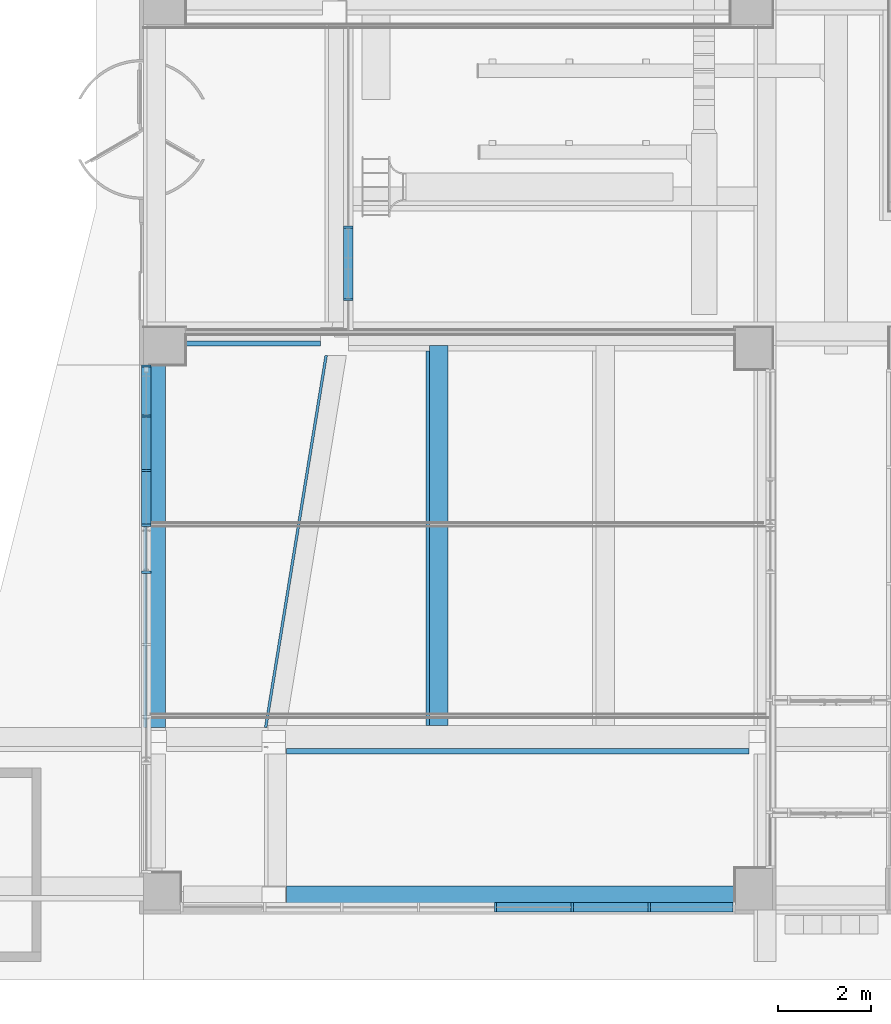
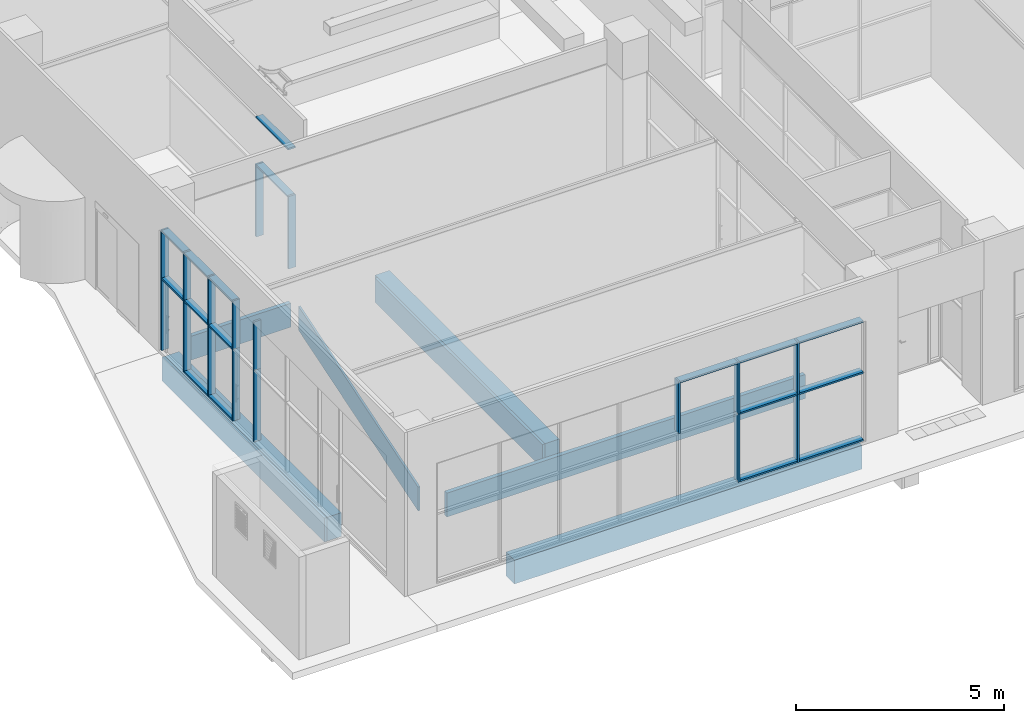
# One storey, part 3 of 100: 34 members, 8 beams, 3 elements without a shape of their own.
"""IFC2X3 building model written with IfcOpenShell, lengths in millimetres."""

from ifc_helpers import new_model, entity, si_unit, converted_unit, derived_unit, direction, frame, frame_2d, origin, origin_2d_with_axis, place, context, subcontext, project, spatial, rectangle, extrude, clip, halfspace, source, transform, mapped, material, material_list, type_object, type_shapes, element, aggregate, save


model = new_model("IFC2X3")

# Units and contexts
model_context = context("Model", 3, precision=0.01, world=origin(), true_north=direction((6.123031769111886e-17, 1.0)))
body_context = subcontext(model_context, "Body", "Model", "MODEL_VIEW")
ifc_project = project(units=[si_unit("LENGTHUNIT", "METRE", prefix="MILLI"), si_unit("AREAUNIT", "SQUARE_METRE"), si_unit("VOLUMEUNIT", "CUBIC_METRE"), converted_unit("PLANEANGLEUNIT", "DEGREE", entity("IfcRatioMeasure", 0.017453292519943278), si_unit("PLANEANGLEUNIT", "RADIAN"), dimensions=[0, 0, 0, 0, 0, 0, 0]), si_unit("MASSUNIT", "GRAM", prefix="KILO"), derived_unit("MASSDENSITYUNIT", [(si_unit("MASSUNIT", "GRAM", prefix="KILO"), 1), (si_unit("LENGTHUNIT", "METRE"), -3)]), derived_unit("MOMENTOFINERTIAUNIT", [(si_unit("LENGTHUNIT", "METRE"), 4)]), si_unit("TIMEUNIT", "SECOND"), si_unit("FREQUENCYUNIT", "HERTZ"), si_unit("THERMODYNAMICTEMPERATUREUNIT", "DEGREE_CELSIUS"), derived_unit("THERMALTRANSMITTANCEUNIT", [(si_unit("MASSUNIT", "GRAM", prefix="KILO"), 1), (si_unit("THERMODYNAMICTEMPERATUREUNIT", "KELVIN"), -1), (si_unit("TIMEUNIT", "SECOND"), -3)]), derived_unit("VOLUMETRICFLOWRATEUNIT", [(si_unit("LENGTHUNIT", "METRE"), 3), (si_unit("TIMEUNIT", "SECOND"), -1)]), derived_unit("MASSFLOWRATEUNIT", [(si_unit("MASSUNIT", "GRAM", prefix="KILO"), 1), (si_unit("TIMEUNIT", "SECOND"), -1)]), derived_unit("ROTATIONALFREQUENCYUNIT", [(si_unit("TIMEUNIT", "SECOND"), -1)]), si_unit("ELECTRICCURRENTUNIT", "AMPERE"), si_unit("ELECTRICVOLTAGEUNIT", "VOLT"), si_unit("POWERUNIT", "WATT"), si_unit("FORCEUNIT", "NEWTON", prefix="KILO"), si_unit("ILLUMINANCEUNIT", "LUX"), si_unit("LUMINOUSFLUXUNIT", "LUMEN"), si_unit("LUMINOUSINTENSITYUNIT", "CANDELA"), derived_unit("USERDEFINED", [(si_unit("MASSUNIT", "GRAM", prefix="KILO"), -1), (si_unit("LENGTHUNIT", "METRE"), -2), (si_unit("TIMEUNIT", "SECOND"), 3), (si_unit("LUMINOUSFLUXUNIT", "LUMEN"), 1)]), derived_unit("SOUNDPOWERUNIT", [(si_unit("MASSUNIT", "GRAM", prefix="KILO"), 1), (si_unit("LENGTHUNIT", "METRE"), 2), (si_unit("TIMEUNIT", "SECOND"), -3)]), derived_unit("SOUNDPRESSUREUNIT", [(si_unit("MASSUNIT", "GRAM", prefix="KILO"), 1), (si_unit("LENGTHUNIT", "METRE"), -1), (si_unit("TIMEUNIT", "SECOND"), -2)]), derived_unit("LINEARVELOCITYUNIT", [(si_unit("LENGTHUNIT", "METRE"), 1), (si_unit("TIMEUNIT", "SECOND"), -1)]), si_unit("PRESSUREUNIT", "PASCAL"), derived_unit("USERDEFINED", [(si_unit("LENGTHUNIT", "METRE"), -2), (si_unit("MASSUNIT", "GRAM", prefix="KILO"), 1), (si_unit("TIMEUNIT", "SECOND"), -2)]), derived_unit("LINEARFORCEUNIT", [(si_unit("MASSUNIT", "GRAM", prefix="KILO"), 1), (si_unit("LENGTHUNIT", "METRE"), 1), (si_unit("TIMEUNIT", "SECOND"), -2), (si_unit("LENGTHUNIT", "METRE"), -1)]), derived_unit("PLANARFORCEUNIT", [(si_unit("MASSUNIT", "GRAM", prefix="KILO"), 1), (si_unit("LENGTHUNIT", "METRE"), 1), (si_unit("TIMEUNIT", "SECOND"), -2), (si_unit("LENGTHUNIT", "METRE"), -2)])], contexts=[model_context])

# Site, building, storey
site_placement = place(None, frame((-14167.972527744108, -657.2125860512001, 0.0)))
site = spatial("IfcSite", under=ifc_project, at=site_placement, Name="Default", CompositionType="ELEMENT")
building_placement = place(site_placement, origin())
building = spatial("IfcBuilding", under=site, at=building_placement, Name="Sample Building", CompositionType="ELEMENT")
storey_placement = place(building_placement, origin())
storey = spatial("IfcBuildingStorey", under=building, at=storey_placement, Name="지상 1층", CompositionType="ELEMENT", Elevation=0.0)

# Curtain wall, members
curtain_wall_type = type_object("IfcCurtainWallType", Name="커튼월:CW112-스테인리스 스틸 커튼월", PredefinedType="NOTDEFINED")
curtain_wall_1_placement = place(storey_placement, origin())
curtain_wall_1 = element("IfcCurtainWall", 1, at=curtain_wall_1_placement, inside=storey, type_object=curtain_wall_type, Name="커튼월:CW112-스테인리스 스틸 커튼월", ObjectType="커튼월:CW112-스테인리스 스틸 커튼월")
ifc_material_1 = material(Name="<Unnamed>")
member_type_1 = type_object("IfcMemberType", Name="직사각형 멀리언:CW200-직사각형 멀리언 50x200mm", PredefinedType="MULLION", material=ifc_material_1)
shared_shape_1 = source(origin(), body_context, "Body", "SweptSolid", [
    extrude(rectangle(XDim=200.0, YDim=50.0, at=origin_2d_with_axis()), frame((-25.0, 0.0, -1420.0), z_axis=(0.0, 0.0, 1.0), x_axis=(0.0, -1.0, 0.0)), (0.0, 0.0, 1.0), 1420.0000000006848),
])
type_shapes(member_type_1, [shared_shape_1])
member_1_placement = place(curtain_wall_1_placement, frame((14129.83965484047, 12257.194891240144, 3600.0), z_axis=(0.0, 0.0, 1.0), x_axis=(0.0, 1.0, 0.0)))
member_1 = element("IfcMember", 2, at=member_1_placement, type_object=member_type_1, material=ifc_material_1, Name="직사각형 멀리언:CW200-직사각형 멀리언 50x200mm", ObjectType="직사각형 멀리언:CW200-직사각형 멀리언 50x200mm", context=body_context, shape_type="MappedRepresentation", body=[
    mapped(shared_shape_1, transform((0.0, 0.0, 0.0), scale=1.0)),
])
member_type_2 = type_object("IfcMemberType", Name="직사각형 멀리언:CW200-직사각형 멀리언 50x200mm", PredefinedType="MULLION", material=ifc_material_1)
shared_shape_2 = source(origin(), body_context, "Body", "SweptSolid", [
    extrude(rectangle(XDim=200.0, YDim=50.0, at=origin_2d_with_axis()), frame((0.0, 0.0, -2100.0), z_axis=(0.0, 0.0, 1.0), x_axis=(0.0, -1.0, 0.0)), (0.0, 0.0, 1.0), 2100.0),
])
type_shapes(member_type_2, [shared_shape_2])
member_2_placement = place(curtain_wall_1_placement, frame((14129.839654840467, 8817.177624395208, 80.0), z_axis=(0.0, 0.0, -1.0), x_axis=(0.0, -1.0, 0.0)))
member_2 = element("IfcMember", 3, at=member_2_placement, type_object=member_type_2, material=ifc_material_1, Name="직사각형 멀리언:CW200-직사각형 멀리언 50x200mm", ObjectType="직사각형 멀리언:CW200-직사각형 멀리언 50x200mm", context=body_context, shape_type="MappedRepresentation", body=[
    mapped(shared_shape_2, transform((0.0, 0.0, 0.0), scale=1.0)),
])
member_3_placement = place(curtain_wall_1_placement, frame((14129.839654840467, 7807.177624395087, 80.0), z_axis=(0.0, 0.0, -1.0), x_axis=(0.0, -1.0, 0.0)))
member_3 = element("IfcMember", 4, at=member_3_placement, type_object=member_type_2, material=ifc_material_1, Name="직사각형 멀리언:CW200-직사각형 멀리언 50x200mm", ObjectType="직사각형 멀리언:CW200-직사각형 멀리언 50x200mm", context=body_context, shape_type="MappedRepresentation", body=[
    mapped(shared_shape_2, transform((0.0, 0.0, 0.0), scale=1.0)),
])
member_4_placement = place(curtain_wall_1_placement, frame((14129.83965484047, 11157.177624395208, 80.0), z_axis=(0.0, 0.0, -1.0), x_axis=(0.0, -1.0, 0.0)))
member_4 = element("IfcMember", 5, at=member_4_placement, type_object=member_type_2, material=ifc_material_1, Name="직사각형 멀리언:CW200-직사각형 멀리언 50x200mm", ObjectType="직사각형 멀리언:CW200-직사각형 멀리언 50x200mm", context=body_context, shape_type="MappedRepresentation", body=[
    mapped(shared_shape_2, transform((0.0, 0.0, 0.0), scale=1.0)),
])
member_5_placement = place(curtain_wall_1_placement, frame((14129.839654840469, 9987.177624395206, 80.0), z_axis=(0.0, 0.0, -1.0), x_axis=(0.0, -1.0, 0.0)))
member_5 = element("IfcMember", 6, at=member_5_placement, type_object=member_type_2, material=ifc_material_1, Name="직사각형 멀리언:CW200-직사각형 멀리언 50x200mm", ObjectType="직사각형 멀리언:CW200-직사각형 멀리언 50x200mm", context=body_context, shape_type="MappedRepresentation", body=[
    mapped(shared_shape_2, transform((0.0, 0.0, 0.0), scale=1.0)),
])
member_type_3 = type_object("IfcMemberType", Name="직사각형 멀리언:CW200-직사각형 멀리언 50x200mm", PredefinedType="MULLION", material=ifc_material_1)
shared_shape_3 = source(origin(), body_context, "Body", "SweptSolid", [
    extrude(rectangle(XDim=200.0, YDim=50.0, at=origin_2d_with_axis()), frame((0.0, 0.0, -1420.0), z_axis=(0.0, 0.0, 1.0), x_axis=(0.0, -1.0, 0.0)), (0.0, 0.0, 1.0), 1420.0000000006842),
])
type_shapes(member_type_3, [shared_shape_3])
member_6_placement = place(curtain_wall_1_placement, frame((14129.839654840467, 8817.177624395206, 2180.0), z_axis=(0.0, 0.0, -1.0), x_axis=(0.0, -1.0, 0.0)))
member_6 = element("IfcMember", 7, at=member_6_placement, type_object=member_type_3, material=ifc_material_1, Name="직사각형 멀리언:CW200-직사각형 멀리언 50x200mm", ObjectType="직사각형 멀리언:CW200-직사각형 멀리언 50x200mm", context=body_context, shape_type="MappedRepresentation", body=[
    mapped(shared_shape_3, transform((0.0, 0.0, 0.0), scale=1.0)),
])
member_7_placement = place(curtain_wall_1_placement, frame((14129.839654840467, 7807.177624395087, 2180.0), z_axis=(0.0, 0.0, -1.0), x_axis=(0.0, -1.0, 0.0)))
member_7 = element("IfcMember", 8, at=member_7_placement, type_object=member_type_3, material=ifc_material_1, Name="직사각형 멀리언:CW200-직사각형 멀리언 50x200mm", ObjectType="직사각형 멀리언:CW200-직사각형 멀리언 50x200mm", context=body_context, shape_type="MappedRepresentation", body=[
    mapped(shared_shape_3, transform((0.0, 0.0, 0.0), scale=1.0)),
])
member_8_placement = place(curtain_wall_1_placement, frame((14129.83965484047, 11157.177624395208, 2180.0), z_axis=(0.0, 0.0, -1.0), x_axis=(0.0, -1.0, 0.0)))
member_8 = element("IfcMember", 9, at=member_8_placement, type_object=member_type_3, material=ifc_material_1, Name="직사각형 멀리언:CW200-직사각형 멀리언 50x200mm", ObjectType="직사각형 멀리언:CW200-직사각형 멀리언 50x200mm", context=body_context, shape_type="MappedRepresentation", body=[
    mapped(shared_shape_3, transform((0.0, 0.0, 0.0), scale=1.0)),
])
member_9_placement = place(curtain_wall_1_placement, frame((14129.839654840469, 9987.177624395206, 2180.0), z_axis=(0.0, 0.0, -1.0), x_axis=(0.0, -1.0, 0.0)))
member_9 = element("IfcMember", 10, at=member_9_placement, type_object=member_type_3, material=ifc_material_1, Name="직사각형 멀리언:CW200-직사각형 멀리언 50x200mm", ObjectType="직사각형 멀리언:CW200-직사각형 멀리언 50x200mm", context=body_context, shape_type="MappedRepresentation", body=[
    mapped(shared_shape_3, transform((0.0, 0.0, 0.0), scale=1.0)),
])
member_type_4 = type_object("IfcMemberType", Name="직사각형 멀리언:CW200-직사각형 멀리언 50x200mm", PredefinedType="MULLION", material=ifc_material_1)
shared_shape_4 = source(origin(), body_context, "Body", "SweptSolid", [
    extrude(rectangle(XDim=200.0, YDim=50.0, at=origin_2d_with_axis()), frame((-25.0, 0.0, -1120.0), z_axis=(0.0, 0.0, 1.0), x_axis=(0.0, -1.0, 0.0)), (0.0, 0.0, 1.0), 1120.0000000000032),
])
type_shapes(member_type_4, [shared_shape_4])
member_10_placement = place(curtain_wall_1_placement, frame((14129.839654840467, 8842.177624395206, 3600.0), z_axis=(0.0, -1.0, 0.0), x_axis=(0.0, 0.0, 1.0)))
member_10 = element("IfcMember", 11, at=member_10_placement, type_object=member_type_4, material=ifc_material_1, Name="직사각형 멀리언:CW200-직사각형 멀리언 50x200mm", ObjectType="직사각형 멀리언:CW200-직사각형 멀리언 50x200mm", context=body_context, shape_type="MappedRepresentation", body=[
    mapped(shared_shape_4, transform((0.0, 0.0, 0.0), scale=1.0)),
])
member_11_placement = place(curtain_wall_1_placement, frame((14129.839654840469, 10012.17762439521, 3600.0), z_axis=(0.0, -1.0, 0.0), x_axis=(0.0, 0.0, 1.0)))
member_11 = element("IfcMember", 12, at=member_11_placement, type_object=member_type_4, material=ifc_material_1, Name="직사각형 멀리언:CW200-직사각형 멀리언 50x200mm", ObjectType="직사각형 멀리언:CW200-직사각형 멀리언 50x200mm", context=body_context, shape_type="MappedRepresentation", body=[
    mapped(shared_shape_4, transform((0.0, 0.0, 0.0), scale=1.0)),
])
member_type_5 = type_object("IfcMemberType", Name="직사각형 멀리언:CW200-직사각형 멀리언 50x200mm", PredefinedType="MULLION", material=ifc_material_1)
shared_shape_5 = source(origin(), body_context, "Body", "SweptSolid", [
    extrude(rectangle(XDim=200.0, YDim=50.0, at=origin_2d_with_axis()), frame((-25.0, 0.0, -2100.0), z_axis=(0.0, 0.0, 1.0), x_axis=(0.0, -1.0, 0.0)), (0.0, 0.0, 1.0), 2099.9999999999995),
])
type_shapes(member_type_5, [shared_shape_5])
member_12_placement = place(curtain_wall_1_placement, frame((14129.83965484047, 12257.194891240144, 2180.0), z_axis=(0.0, 0.0, 1.0), x_axis=(0.0, 1.0, 0.0)))
member_12 = element("IfcMember", 13, at=member_12_placement, type_object=member_type_5, material=ifc_material_1, Name="직사각형 멀리언:CW200-직사각형 멀리언 50x200mm", ObjectType="직사각형 멀리언:CW200-직사각형 멀리언 50x200mm", context=body_context, shape_type="MappedRepresentation", body=[
    mapped(shared_shape_5, transform((0.0, 0.0, 0.0), scale=1.0)),
])
member_type_6 = type_object("IfcMemberType", Name="직사각형 멀리언:CW200-직사각형 멀리언 50x200mm", PredefinedType="MULLION", material=ifc_material_1)
shared_shape_6 = source(origin(), body_context, "Body", "SweptSolid", [
    extrude(rectangle(XDim=200.0, YDim=50.0, at=origin_2d_with_axis()), frame((0.0, 0.0, -1025.0172668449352), z_axis=(0.0, 0.0, 1.0), x_axis=(0.0, -1.0, 0.0)), (0.0, 0.0, 1.0), 1025.017266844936),
])
type_shapes(member_type_6, [shared_shape_6])
member_13_placement = place(curtain_wall_1_placement, frame((14129.83965484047, 11182.177624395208, 2180.0), z_axis=(0.0, -1.0, 0.0), x_axis=(0.0, 0.0, 1.0)))
member_13 = element("IfcMember", 14, at=member_13_placement, type_object=member_type_6, material=ifc_material_1, Name="직사각형 멀리언:CW200-직사각형 멀리언 50x200mm", ObjectType="직사각형 멀리언:CW200-직사각형 멀리언 50x200mm", context=body_context, shape_type="MappedRepresentation", body=[
    mapped(shared_shape_6, transform((0.0, 0.0, 0.0), scale=1.0)),
])
member_type_7 = type_object("IfcMemberType", Name="직사각형 멀리언:CW200-직사각형 멀리언 50x200mm", PredefinedType="MULLION", material=ifc_material_1)
shared_shape_7 = source(origin(), body_context, "Body", "SweptSolid", [
    extrude(rectangle(XDim=200.0, YDim=50.0, at=origin_2d_with_axis()), frame((-25.0, 0.0, -1025.0172668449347), z_axis=(0.0, 0.0, 1.0), x_axis=(0.0, -1.0, 0.0)), (0.0, 0.0, 1.0), 1025.0172668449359),
])
type_shapes(member_type_7, [shared_shape_7])
member_14_placement = place(curtain_wall_1_placement, frame((14129.83965484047, 11182.177624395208, 3600.0), z_axis=(0.0, -1.0, 0.0), x_axis=(0.0, 0.0, 1.0)))
member_14 = element("IfcMember", 15, at=member_14_placement, type_object=member_type_7, material=ifc_material_1, Name="직사각형 멀리언:CW200-직사각형 멀리언 50x200mm", ObjectType="직사각형 멀리언:CW200-직사각형 멀리언 50x200mm", context=body_context, shape_type="MappedRepresentation", body=[
    mapped(shared_shape_7, transform((0.0, 0.0, 0.0), scale=1.0)),
])
member_type_8 = type_object("IfcMemberType", Name="직사각형 멀리언:CW200-직사각형 멀리언 50x200mm", PredefinedType="MULLION", material=ifc_material_1)
shared_shape_8 = source(origin(), body_context, "Body", "SweptSolid", [
    extrude(rectangle(XDim=200.0, YDim=50.0, at=origin_2d_with_axis()), frame((-25.0, 0.0, -1120.0), z_axis=(0.0, 0.0, 1.0), x_axis=(0.0, -1.0, 0.0)), (0.0, 0.0, 1.0), 1120.0000000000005),
])
type_shapes(member_type_8, [shared_shape_8])
member_15_placement = place(curtain_wall_1_placement, frame((14129.83965484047, 11132.177624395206, 80.0), z_axis=(0.0, 1.0, 0.0), x_axis=(0.0, 0.0, -1.0)))
member_15 = element("IfcMember", 16, at=member_15_placement, type_object=member_type_8, material=ifc_material_1, Name="직사각형 멀리언:CW200-직사각형 멀리언 50x200mm", ObjectType="직사각형 멀리언:CW200-직사각형 멀리언 50x200mm", context=body_context, shape_type="MappedRepresentation", body=[
    mapped(shared_shape_8, transform((0.0, 0.0, 0.0), scale=1.0)),
])
member_16_placement = place(curtain_wall_1_placement, frame((14129.839654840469, 9962.177624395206, 80.0), z_axis=(0.0, 1.0, 0.0), x_axis=(0.0, 0.0, -1.0)))
member_16 = element("IfcMember", 17, at=member_16_placement, type_object=member_type_8, material=ifc_material_1, Name="직사각형 멀리언:CW200-직사각형 멀리언 50x200mm", ObjectType="직사각형 멀리언:CW200-직사각형 멀리언 50x200mm", context=body_context, shape_type="MappedRepresentation", body=[
    mapped(shared_shape_8, transform((0.0, 0.0, 0.0), scale=1.0)),
])
member_type_9 = type_object("IfcMemberType", Name="직사각형 멀리언:CW200-직사각형 멀리언 50x200mm", PredefinedType="MULLION", material=ifc_material_1)
shared_shape_9 = source(origin(), body_context, "Body", "SweptSolid", [
    extrude(rectangle(XDim=200.0, YDim=50.0, at=origin_2d_with_axis()), frame((0.0, 0.0, -1120.0), z_axis=(0.0, 0.0, 1.0), x_axis=(0.0, -1.0, 0.0)), (0.0, 0.0, 1.0), 1120.0000000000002),
])
type_shapes(member_type_9, [shared_shape_9])
member_17_placement = place(curtain_wall_1_placement, frame((14129.839654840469, 10012.177624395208, 2180.0), z_axis=(0.0, -1.0, 0.0), x_axis=(0.0, 0.0, 1.0)))
member_17 = element("IfcMember", 18, at=member_17_placement, type_object=member_type_9, material=ifc_material_1, Name="직사각형 멀리언:CW200-직사각형 멀리언 50x200mm", ObjectType="직사각형 멀리언:CW200-직사각형 멀리언 50x200mm", context=body_context, shape_type="MappedRepresentation", body=[
    mapped(shared_shape_9, transform((0.0, 0.0, 0.0), scale=1.0)),
])
member_18_placement = place(curtain_wall_1_placement, frame((14129.839654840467, 8842.177624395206, 2180.0), z_axis=(0.0, -1.0, 0.0), x_axis=(0.0, 0.0, 1.0)))
member_18 = element("IfcMember", 19, at=member_18_placement, type_object=member_type_9, material=ifc_material_1, Name="직사각형 멀리언:CW200-직사각형 멀리언 50x200mm", ObjectType="직사각형 멀리언:CW200-직사각형 멀리언 50x200mm", context=body_context, shape_type="MappedRepresentation", body=[
    mapped(shared_shape_9, transform((0.0, 0.0, 0.0), scale=1.0)),
])
aggregate(curtain_wall_1, [member_1, member_10, member_2, member_3, member_12, member_13, member_6, member_7, member_14, member_15, member_17, member_4, member_8, member_11, member_16, member_18, member_5, member_9])

curtain_wall_2_placement = place(storey_placement, origin())
curtain_wall_2 = element("IfcCurtainWall", 20, at=curtain_wall_2_placement, inside=storey, type_object=curtain_wall_type, Name="커튼월:CW112-스테인리스 스틸 커튼월", ObjectType="커튼월:CW112-스테인리스 스틸 커튼월")
member_type_10 = type_object("IfcMemberType", Name="직사각형 멀리언:CW200-직사각형 멀리언 50x200mm", PredefinedType="MULLION", material=ifc_material_1)
shared_shape_10 = source(origin(), body_context, "Body", "SweptSolid", [
    extrude(rectangle(XDim=200.0, YDim=50.0, at=origin_2d_with_axis()), frame((-25.0, 0.0, -1769.2071280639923), z_axis=(0.0, 0.0, 1.0), x_axis=(0.0, -1.0, 0.0)), (0.0, 0.0, 1.0), 1769.2071280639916),
])
type_shapes(member_type_10, [shared_shape_10])
member_19_placement = place(curtain_wall_2_placement, frame((26717.97249113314, 619.7122951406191, 3600.0), z_axis=(1.0, 0.0, 0.0), x_axis=(0.0, 0.0, 1.0)))
member_19 = element("IfcMember", 21, at=member_19_placement, type_object=member_type_10, material=ifc_material_1, Name="직사각형 멀리언:CW200-직사각형 멀리언 50x200mm", ObjectType="직사각형 멀리언:CW200-직사각형 멀리언 50x200mm", context=body_context, shape_type="MappedRepresentation", body=[
    mapped(shared_shape_10, transform((0.0, 0.0, 0.0), scale=1.0)),
])
member_type_11 = type_object("IfcMemberType", Name="직사각형 멀리언:CW200-직사각형 멀리언 50x200mm", PredefinedType="MULLION", material=ifc_material_1)
shared_shape_11 = source(origin(), body_context, "Body", "SweptSolid", [
    extrude(rectangle(XDim=200.0, YDim=50.0, at=origin_2d_with_axis()), frame((-25.0, 0.0, -1600.0), z_axis=(0.0, 0.0, 1.0), x_axis=(0.0, -1.0, 0.0)), (0.0, 0.0, 1.0), 1599.9999999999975),
])
type_shapes(member_type_11, [shared_shape_11])
member_20_placement = place(curtain_wall_2_placement, frame((23248.765363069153, 619.7122951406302, 3600.0), z_axis=(1.0, 0.0, 0.0), x_axis=(0.0, 0.0, 1.0)))
member_20 = element("IfcMember", 22, at=member_20_placement, type_object=member_type_11, material=ifc_material_1, Name="직사각형 멀리언:CW200-직사각형 멀리언 50x200mm", ObjectType="직사각형 멀리언:CW200-직사각형 멀리언 50x200mm", context=body_context, shape_type="MappedRepresentation", body=[
    mapped(shared_shape_11, transform((0.0, 0.0, 0.0), scale=1.0)),
])
member_21_placement = place(curtain_wall_2_placement, frame((24898.76536306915, 619.712295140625, 3600.0), z_axis=(1.0, 0.0, 0.0), x_axis=(0.0, 0.0, 1.0)))
member_21 = element("IfcMember", 23, at=member_21_placement, type_object=member_type_11, material=ifc_material_1, Name="직사각형 멀리언:CW200-직사각형 멀리언 50x200mm", ObjectType="직사각형 멀리언:CW200-직사각형 멀리언 50x200mm", context=body_context, shape_type="MappedRepresentation", body=[
    mapped(shared_shape_11, transform((0.0, 0.0, 0.0), scale=1.0)),
])
member_type_12 = type_object("IfcMemberType", Name="직사각형 멀리언:CW200-직사각형 멀리언 50x200mm", PredefinedType="MULLION", material=ifc_material_1)
shared_shape_12 = source(origin(), body_context, "Body", "SweptSolid", [
    extrude(rectangle(XDim=200.0, YDim=50.0, at=origin_2d_with_axis()), frame((-25.0, 0.0, -1600.0), z_axis=(0.0, 0.0, 1.0), x_axis=(0.0, -1.0, 0.0)), (0.0, 0.0, 1.0), 1600.0000000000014),
])
type_shapes(member_type_12, [shared_shape_12])
member_22_placement = place(curtain_wall_2_placement, frame((23298.76536306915, 619.71229514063, 80.0), z_axis=(-1.0, 0.0, 0.0), x_axis=(0.0, 0.0, -1.0)))
member_22 = element("IfcMember", 24, at=member_22_placement, type_object=member_type_12, material=ifc_material_1, Name="직사각형 멀리언:CW200-직사각형 멀리언 50x200mm", ObjectType="직사각형 멀리언:CW200-직사각형 멀리언 50x200mm", context=body_context, shape_type="MappedRepresentation", body=[
    mapped(shared_shape_12, transform((0.0, 0.0, 0.0), scale=1.0)),
])
member_type_13 = type_object("IfcMemberType", Name="직사각형 멀리언:CW200-직사각형 멀리언 50x200mm", PredefinedType="MULLION", material=ifc_material_1)
shared_shape_13 = source(origin(), body_context, "Body", "SweptSolid", [
    extrude(rectangle(XDim=200.0, YDim=50.0, at=origin_2d_with_axis()), frame((0.0, 0.0, -2000.0), z_axis=(0.0, 0.0, 1.0), x_axis=(0.0, -1.0, 0.0)), (0.0, 0.0, 1.0), 2000.0000000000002),
])
type_shapes(member_type_13, [shared_shape_13])
member_23_placement = place(curtain_wall_2_placement, frame((23273.765363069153, 619.7122951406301, 80.0), z_axis=(0.0, 0.0, -1.0), x_axis=(1.0, 0.0, 0.0)))
member_23 = element("IfcMember", 25, at=member_23_placement, type_object=member_type_13, material=ifc_material_1, Name="직사각형 멀리언:CW200-직사각형 멀리언 50x200mm", ObjectType="직사각형 멀리언:CW200-직사각형 멀리언 50x200mm", context=body_context, shape_type="MappedRepresentation", body=[
    mapped(shared_shape_13, transform((0.0, 0.0, 0.0), scale=1.0)),
])
member_24_placement = place(curtain_wall_2_placement, frame((24923.76536306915, 619.7122951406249, 80.0), z_axis=(0.0, 0.0, -1.0), x_axis=(1.0, 0.0, 0.0)))
member_24 = element("IfcMember", 26, at=member_24_placement, type_object=member_type_13, material=ifc_material_1, Name="직사각형 멀리언:CW200-직사각형 멀리언 50x200mm", ObjectType="직사각형 멀리언:CW200-직사각형 멀리언 50x200mm", context=body_context, shape_type="MappedRepresentation", body=[
    mapped(shared_shape_13, transform((0.0, 0.0, 0.0), scale=1.0)),
])
member_type_14 = type_object("IfcMemberType", Name="직사각형 멀리언:CW200-직사각형 멀리언 50x200mm", PredefinedType="MULLION", material=ifc_material_1)
shared_shape_14 = source(origin(), body_context, "Body", "SweptSolid", [
    extrude(rectangle(XDim=200.0, YDim=50.0, at=origin_2d_with_axis()), frame((0.0, 0.0, -1600.0), z_axis=(0.0, 0.0, 1.0), x_axis=(0.0, -1.0, 0.0)), (0.0, 0.0, 1.0), 1600.0000000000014),
])
type_shapes(member_type_14, [shared_shape_14])
member_25_placement = place(curtain_wall_2_placement, frame((24898.76536306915, 619.712295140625, 2080.0), z_axis=(1.0, 0.0, 0.0), x_axis=(0.0, 0.0, 1.0)))
member_25 = element("IfcMember", 27, at=member_25_placement, type_object=member_type_14, material=ifc_material_1, Name="직사각형 멀리언:CW200-직사각형 멀리언 50x200mm", ObjectType="직사각형 멀리언:CW200-직사각형 멀리언 50x200mm", context=body_context, shape_type="MappedRepresentation", body=[
    mapped(shared_shape_14, transform((0.0, 0.0, 0.0), scale=1.0)),
])
member_type_15 = type_object("IfcMemberType", Name="직사각형 멀리언:CW200-직사각형 멀리언 50x200mm", PredefinedType="MULLION", material=ifc_material_1)
shared_shape_15 = source(origin(), body_context, "Body", "SweptSolid", [
    extrude(rectangle(XDim=200.0, YDim=50.0, at=origin_2d_with_axis()), frame((0.0, 0.0, -1520.0), z_axis=(0.0, 0.0, 1.0), x_axis=(0.0, -1.0, 0.0)), (0.0, 0.0, 1.0), 1520.0000000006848),
])
type_shapes(member_type_15, [shared_shape_15])
member_26_placement = place(curtain_wall_2_placement, frame((21623.765363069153, 619.7122951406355, 2080.0), z_axis=(0.0, 0.0, -1.0), x_axis=(1.0, 0.0, 0.0)))
member_26 = element("IfcMember", 28, at=member_26_placement, type_object=member_type_15, material=ifc_material_1, Name="직사각형 멀리언:CW200-직사각형 멀리언 50x200mm", ObjectType="직사각형 멀리언:CW200-직사각형 멀리언 50x200mm", context=body_context, shape_type="MappedRepresentation", body=[
    mapped(shared_shape_15, transform((0.0, 0.0, 0.0), scale=1.0)),
])
member_27_placement = place(curtain_wall_2_placement, frame((23273.765363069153, 619.7122951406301, 2080.0), z_axis=(0.0, 0.0, -1.0), x_axis=(1.0, 0.0, 0.0)))
member_27 = element("IfcMember", 29, at=member_27_placement, type_object=member_type_15, material=ifc_material_1, Name="직사각형 멀리언:CW200-직사각형 멀리언 50x200mm", ObjectType="직사각형 멀리언:CW200-직사각형 멀리언 50x200mm", context=body_context, shape_type="MappedRepresentation", body=[
    mapped(shared_shape_15, transform((0.0, 0.0, 0.0), scale=1.0)),
])
member_28_placement = place(curtain_wall_2_placement, frame((24923.76536306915, 619.7122951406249, 2080.0), z_axis=(0.0, 0.0, -1.0), x_axis=(1.0, 0.0, 0.0)))
member_28 = element("IfcMember", 30, at=member_28_placement, type_object=member_type_15, material=ifc_material_1, Name="직사각형 멀리언:CW200-직사각형 멀리언 50x200mm", ObjectType="직사각형 멀리언:CW200-직사각형 멀리언 50x200mm", context=body_context, shape_type="MappedRepresentation", body=[
    mapped(shared_shape_15, transform((0.0, 0.0, 0.0), scale=1.0)),
])
member_type_16 = type_object("IfcMemberType", Name="직사각형 멀리언:CW200-직사각형 멀리언 50x200mm", PredefinedType="MULLION", material=ifc_material_1)
shared_shape_16 = source(origin(), body_context, "Body", "SweptSolid", [
    extrude(rectangle(XDim=200.0, YDim=50.0, at=origin_2d_with_axis()), frame((-25.0, 0.0, -1769.2071280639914), z_axis=(0.0, 0.0, 1.0), x_axis=(0.0, -1.0, 0.0)), (0.0, 0.0, 1.0), 1769.2071280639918),
])
type_shapes(member_type_16, [shared_shape_16])
member_29_placement = place(curtain_wall_2_placement, frame((24948.765363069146, 619.7122951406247, 80.0), z_axis=(-1.0, 0.0, 0.0), x_axis=(0.0, 0.0, -1.0)))
member_29 = element("IfcMember", 31, at=member_29_placement, type_object=member_type_16, material=ifc_material_1, Name="직사각형 멀리언:CW200-직사각형 멀리언 50x200mm", ObjectType="직사각형 멀리언:CW200-직사각형 멀리언 50x200mm", context=body_context, shape_type="MappedRepresentation", body=[
    mapped(shared_shape_16, transform((0.0, 0.0, 0.0), scale=1.0)),
])
member_type_17 = type_object("IfcMemberType", Name="직사각형 멀리언:CW200-직사각형 멀리언 50x200mm", PredefinedType="MULLION", material=ifc_material_1)
shared_shape_17 = source(origin(), body_context, "Body", "SweptSolid", [
    extrude(rectangle(XDim=200.0, YDim=50.0, at=origin_2d_with_axis()), frame((0.0, 0.0, -1769.2071280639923), z_axis=(0.0, 0.0, 1.0), x_axis=(0.0, -1.0, 0.0)), (0.0, 0.0, 1.0), 1769.2071280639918),
])
type_shapes(member_type_17, [shared_shape_17])
member_30_placement = place(curtain_wall_2_placement, frame((26717.97249113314, 619.7122951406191, 2080.0), z_axis=(1.0, 0.0, 0.0), x_axis=(0.0, 0.0, 1.0)))
member_30 = element("IfcMember", 32, at=member_30_placement, type_object=member_type_17, material=ifc_material_1, Name="직사각형 멀리언:CW200-직사각형 멀리언 50x200mm", ObjectType="직사각형 멀리언:CW200-직사각형 멀리언 50x200mm", context=body_context, shape_type="MappedRepresentation", body=[
    mapped(shared_shape_17, transform((0.0, 0.0, 0.0), scale=1.0)),
])
aggregate(curtain_wall_2, [member_19, member_26, member_20, member_22, member_25, member_23, member_27, member_21, member_29, member_30, member_24, member_28])

curtain_wall_3_placement = place(storey_placement, origin())
curtain_wall_3 = element("IfcCurtainWall", 33, at=curtain_wall_3_placement, inside=storey, type_object=curtain_wall_type, Name="커튼월:CW112-스테인리스 스틸 커튼월", ObjectType="커튼월:CW112-스테인리스 스틸 커튼월")
member_type_18 = type_object("IfcMemberType", Name="직사각형 멀리언:CW200-직사각형 멀리언 50x200mm", PredefinedType="MULLION", material=ifc_material_1)
shared_shape_18 = source(origin(), body_context, "Body", "SweptSolid", [
    extrude(rectangle(XDim=200.0, YDim=50.0, at=origin_2d_with_axis()), frame((-25.0, 0.0, -1550.0), z_axis=(0.0, 0.0, 1.0), x_axis=(0.0, -1.0, 0.0)), (0.0, 0.0, 1.0), 1550.0000000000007),
])
type_shapes(member_type_18, [shared_shape_18])
member_31_placement = place(curtain_wall_3_placement, frame((18467.963798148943, 13657.268334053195, 3600.0), z_axis=(0.0, -1.0, 0.0), x_axis=(0.0, 0.0, 1.0)))
member_31 = element("IfcMember", 34, at=member_31_placement, type_object=member_type_18, material=ifc_material_1, Name="직사각형 멀리언:CW200-직사각형 멀리언 50x200mm", ObjectType="직사각형 멀리언:CW200-직사각형 멀리언 50x200mm", context=body_context, shape_type="MappedRepresentation", body=[
    mapped(shared_shape_18, transform((0.0, 0.0, 0.0), scale=1.0)),
])
member_type_19 = type_object("IfcMemberType", Name="직사각형 멀리언:CW200-직사각형 멀리언 50x200mm", PredefinedType="MULLION", material=ifc_material_1)
shared_shape_19 = source(origin(), body_context, "Body", "SweptSolid", [
    extrude(rectangle(XDim=200.0, YDim=50.0, at=origin_2d_with_axis()), frame((0.0, 0.0, -2125.0), z_axis=(0.0, 0.0, 1.0), x_axis=(0.0, -1.0, 0.0)), (0.0, 0.0, 1.0), 2125.0),
])
type_shapes(member_type_19, [shared_shape_19])
member_32_placement = place(curtain_wall_3_placement, frame((18467.963798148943, 13657.268334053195, 80.0), z_axis=(0.0, 0.0, -1.0), x_axis=(0.0, -1.0, 0.0)))
member_32 = element("IfcMember", 35, at=member_32_placement, type_object=member_type_19, material=ifc_material_1, Name="직사각형 멀리언:CW200-직사각형 멀리언 50x200mm", ObjectType="직사각형 멀리언:CW200-직사각형 멀리언 50x200mm", context=body_context, shape_type="MappedRepresentation", body=[
    mapped(shared_shape_19, transform((0.0, 0.0, 0.0), scale=1.0)),
])
member_33_placement = place(curtain_wall_3_placement, frame((18467.963798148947, 15207.268334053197, 80.0), z_axis=(0.0, 0.0, -1.0), x_axis=(0.0, -1.0, 0.0)))
member_33 = element("IfcMember", 36, at=member_33_placement, type_object=member_type_19, material=ifc_material_1, Name="직사각형 멀리언:CW200-직사각형 멀리언 50x200mm", ObjectType="직사각형 멀리언:CW200-직사각형 멀리언 50x200mm", context=body_context, shape_type="MappedRepresentation", body=[
    mapped(shared_shape_19, transform((0.0, 0.0, 0.0), scale=1.0)),
])
member_type_20 = type_object("IfcMemberType", Name="직사각형 멀리언:CW200-직사각형 멀리언 50x200mm", PredefinedType="MULLION", material=ifc_material_1)
shared_shape_20 = source(origin(), body_context, "Body", "SweptSolid", [
    extrude(rectangle(XDim=200.0, YDim=50.0, at=origin_2d_with_axis()), frame((0.0, 0.0, -1500.0), z_axis=(0.0, 0.0, 1.0), x_axis=(0.0, -1.0, 0.0)), (0.0, 0.0, 1.0), 1500.0000000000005),
])
type_shapes(member_type_20, [shared_shape_20])
member_34_placement = place(curtain_wall_3_placement, frame((18467.963798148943, 13682.268334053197, 2180.0), z_axis=(0.0, -1.0, 0.0), x_axis=(0.0, 0.0, 1.0)))
member_34 = element("IfcMember", 37, at=member_34_placement, type_object=member_type_20, material=ifc_material_1, Name="직사각형 멀리언:CW200-직사각형 멀리언 50x200mm", ObjectType="직사각형 멀리언:CW200-직사각형 멀리언 50x200mm", context=body_context, shape_type="MappedRepresentation", body=[
    mapped(shared_shape_20, transform((0.0, 0.0, 0.0), scale=1.0)),
])
aggregate(curtain_wall_3, [member_31, member_32, member_33, member_34])

# Beams
ifc_material_2 = material(Name="KBIMS-콘크리트")
beam_type_1 = type_object("IfcBeamType", Name="BM111-철근콘크리트구조 보:BM110-철근 콘크리트구조 보_400 x 850_B1-1G3", PredefinedType="NOTDEFINED")
beam_1_placement = place(storey_placement, frame((14517.955105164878, 12857.212604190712, 0.0)))
element("IfcBeam", 38, at=beam_1_placement, inside=storey, type_object=beam_type_1, material=ifc_material_2, Name="BM111-철근콘크리트구조 보:BM110-철근 콘크리트구조 보_400 x 850_B1-1G3", ObjectType="BM111-철근콘크리트구조 보:BM110-철근 콘크리트구조 보_400 x 850_B1-1G3", context=body_context, shape_type="SweptSolid", body=[
    extrude(rectangle(XDim=700.0000000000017, YDim=113.86449812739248, at=origin_2d_with_axis()), frame((450.0, -143.06775093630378, -500.0), z_axis=(1.0, 0.0, 0.0), x_axis=(0.0, 0.0, -1.0)), (0.0, 0.0, 1.0), 2899.9913436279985),
])
beam_type_2 = type_object("IfcBeamType", Name="BM111-철근콘크리트구조 보:BM110-철근 콘크리트구조 보_400 x 850_B1-1G1", PredefinedType="NOTDEFINED")
beam_2_placement = place(storey_placement, frame((27443.237206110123, 871.0771023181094, 0.0), z_axis=(0.0, 0.0, 1.0), x_axis=(-1.0, 0.0, 0.0)))
element("IfcBeam", 39, at=beam_2_placement, inside=storey, type_object=beam_type_2, material=ifc_material_2, Name="BM111-철근콘크리트구조 보:BM110-철근 콘크리트구조 보_400 x 850_B1-1G1", ObjectType="BM111-철근콘크리트구조 보:BM110-철근 콘크리트구조 보_400 x 850_B1-1G1", context=body_context, shape_type="SweptSolid", body=[
    extrude(rectangle(XDim=700.0000000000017, YDim=400.0000000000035, at=frame_2d((0.0, -1.2789769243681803e-13), x_axis=(1.0, 0.0))), frame((675.9956535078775, 0.0, -500.0), z_axis=(1.0, 0.0, 0.0), x_axis=(0.0, 0.0, -1.0)), (0.0, 0.0, 1.0), 9623.995653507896),
])
beam_type_3 = type_object("IfcBeamType", Name="BM111-철근콘크리트구조 보:BM110-철근 콘크리트구조 보_500 x 850_B1-1G5", PredefinedType="NOTDEFINED")
beam_3_placement = place(storey_placement, frame((27367.575255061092, 4157.2126921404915, 0.0), z_axis=(0.0, 0.0, 1.0), x_axis=(-1.0, 0.0, 0.0)))
element("IfcBeam", 40, at=beam_3_placement, inside=storey, type_object=beam_type_3, material=ifc_material_2, Name="BM111-철근콘크리트구조 보:BM110-철근 콘크리트구조 보_500 x 850_B1-1G5", ObjectType="BM111-철근콘크리트구조 보:BM110-철근 콘크리트구조 보_500 x 850_B1-1G5", context=body_context, shape_type="SweptSolid", body=[
    extrude(rectangle(XDim=700.0000000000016, YDim=113.86449812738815, at=frame_2d((-8.526512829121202e-14, 0.0), x_axis=(1.0, 0.0))), frame((299.6201132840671, 193.06775093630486, -500.0), z_axis=(1.0, 0.0, 0.0), x_axis=(0.0, 0.0, -1.0)), (0.0, 0.0, 1.0), 9924.709242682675),
])
ifc_material_list = material_list([ifc_material_2, ifc_material_2])
beam_type_4 = type_object("IfcBeamType", Name="BM111-철근콘크리트구조 보:BM110-철근 콘크리트구조 보_400 x 850_B1-1G2", PredefinedType="BEAM", material=ifc_material_list)
beam_4_placement = place(storey_placement, frame((14343.245899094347, 12771.077115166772, 0.0), z_axis=(0.0, 0.0, 1.0), x_axis=(0.0, -1.0, 0.0)))
element("IfcBeam", 41, at=beam_4_placement, inside=storey, type_object=beam_type_4, material=ifc_material_2, Name="BM111-철근콘크리트구조 보:BM110-철근 콘크리트구조 보_400 x 850_B1-1G2", ObjectType="BM111-철근콘크리트구조 보:BM110-철근 콘크리트구조 보_400 x 850_B1-1G2", context=body_context, shape_type="SweptSolid", body=[
    extrude(rectangle(XDim=700.0000000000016, YDim=400.0000000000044, at=frame_2d((1.4210854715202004e-13, 0.0), x_axis=(1.0, 0.0))), frame((513.9999624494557, 0.0, -500.0), z_axis=(1.0, 0.0, 0.0), x_axis=(0.0, 0.0, -1.0)), (0.0, 0.0, 1.0), 7785.999962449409),
])
beam_5_placement = place(storey_placement, frame((14267.946448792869, 12657.212617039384, 0.0), z_axis=(0.0, 0.0, 1.0), x_axis=(0.0, -1.0, 0.0)))
element("IfcBeam", 42, at=beam_5_placement, inside=storey, type_object=beam_type_4, material=ifc_material_2, Name="BM111-철근콘크리트구조 보:BM110-철근 콘크리트구조 보_400 x 850_B1-1G2", ObjectType="BM111-철근콘크리트구조 보:BM110-철근 콘크리트구조 보_400 x 850_B1-1G2", context=body_context, shape_type="SweptSolid", body=[
    extrude(rectangle(XDim=700.0000000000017, YDim=75.29075731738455, at=frame_2d((-1.0970779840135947e-11, 0.0021732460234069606), x_axis=(1.0, 0.0))), frame((400.49996244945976, -162.35244809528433, -500.0), z_axis=(1.0, 0.0, 0.0), x_axis=(0.0, 0.0, -1.0)), (0.0, 0.0, 1.0), 7785.635464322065),
])
beam_6_placement = place(storey_placement, frame((18213.07813794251, 12751.090136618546, 0.0), z_axis=(0.0, 0.0, 1.0), x_axis=(-0.16039607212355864, -0.9870527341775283, 0.0)))
element("IfcBeam", 43, at=beam_6_placement, inside=storey, type_object=beam_type_4, material=ifc_material_2, Name="BM111-철근콘크리트구조 보:BM110-철근 콘크리트구조 보_400 x 850_B1-1G2", ObjectType="BM111-철근콘크리트구조 보:BM110-철근 콘크리트구조 보_400 x 850_B1-1G2", context=body_context, shape_type="SweptSolid", body=[
    clip(clip(extrude(rectangle(XDim=700.0000000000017, YDim=56.061110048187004, at=frame_2d((0.0, -2.311040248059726e-12), x_axis=(1.0, 0.0))), frame((321.1224627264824, -171.96944497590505, -500.0), z_axis=(1.0, 0.0, 0.0), x_axis=(0.0, 0.0, -1.0)), (0.0, 0.0, 1.0), 8100.000211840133), halfspace(frame((8428.773310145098, -247.08083350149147, 0.0), z_axis=(0.9870527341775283, 0.16039607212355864, 0.0), x_axis=(0.16039607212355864, -0.9870527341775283, 0.0)), False)), halfspace(frame((345.43042852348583, -293.5263691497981, 0.0), z_axis=(-0.9870527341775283, -0.16039607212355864, 0.0), x_axis=(0.0, 0.0, -1.0)), False)),
])
beam_type_5 = type_object("IfcBeamType", Name="BM111-철근콘크리트구조 보:BM110-철근 콘크리트구조 보_400 x 800_B1-1B2", PredefinedType="NOTDEFINED")
beam_7_placement = place(storey_placement, frame((20409.92908215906, 12921.077049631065, 0.0), z_axis=(0.0, 0.0, 1.0), x_axis=(0.0, -1.0, 0.0)))
element("IfcBeam", 44, at=beam_7_placement, inside=storey, type_object=beam_type_5, material=ifc_material_2, Name="BM111-철근콘크리트구조 보:BM110-철근 콘크리트구조 보_400 x 800_B1-1B2", ObjectType="BM111-철근콘크리트구조 보:BM110-철근 콘크리트구조 보_400 x 800_B1-1B2", context=body_context, shape_type="SweptSolid", body=[
    extrude(rectangle(XDim=700.0000000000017, YDim=400.0, at=frame_2d((0.0, 2.1742607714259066e-12), x_axis=(1.0, 0.0))), frame((250.0, 0.0, -500.0), z_axis=(1.0, 0.0, 0.0), x_axis=(0.0, 0.0, -1.0)), (0.0, 0.0, 1.0), 8149.999859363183),
])
beam_8_placement = place(storey_placement, frame((20334.62963185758, 12807.212551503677, 0.0), z_axis=(0.0, 0.0, 1.0), x_axis=(0.0, -1.0, 0.0)))
element("IfcBeam", 45, at=beam_8_placement, inside=storey, type_object=beam_type_5, material=ifc_material_2, Name="BM111-철근콘크리트구조 보:BM110-철근 콘크리트구조 보_400 x 800_B1-1B2", ObjectType="BM111-철근콘크리트구조 보:BM110-철근 콘크리트구조 보_400 x 800_B1-1B2", context=body_context, shape_type="SweptSolid", body=[
    extrude(rectangle(XDim=700.0000000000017, YDim=75.29945030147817, at=frame_2d((0.0, -2.163602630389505e-12), x_axis=(1.0, 0.0))), frame((250.0, -162.35027484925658, -500.0), z_axis=(1.0, 0.0, 0.0), x_axis=(0.0, 0.0, -1.0)), (0.0, 0.0, 1.0), 8036.135361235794),
])

save(model, "model.ifc")
